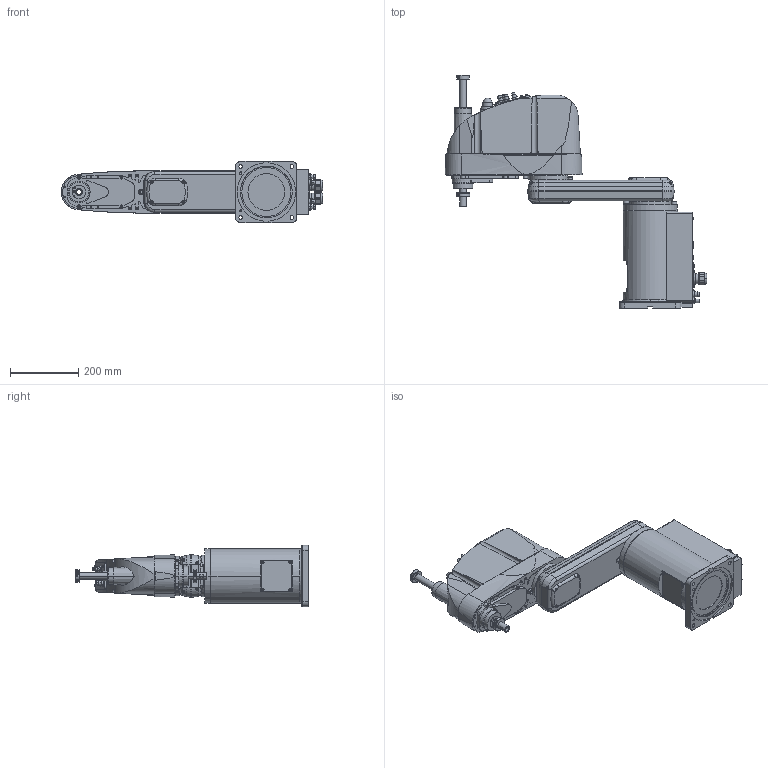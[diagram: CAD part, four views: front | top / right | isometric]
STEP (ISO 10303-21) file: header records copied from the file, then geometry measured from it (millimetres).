
FILE_DESCRIPTION( ( '' ), '1' );
FILE_NAME( '//expscmdclustefs.cadenas.external/client_exchange/iodir/jobs/output/wkb51534767_no0/STEP/G6_551S_2_14b.stp', '2012-11-23T09:08:28', ( '' ), ( '' ), ' ', ' ', ' ' );
FILE_SCHEMA( ( 'automotive_design' ) );
Length unit declared in the file: millimetre
Products named in the file (4): 1; 2; 3; 4
Bounding box: 767.5 x 684 x 180 mm (x, y, z)
Volume: 19950557.5 mm3; surface area: 871505.3 mm2
Topology: 4 solids, 4 shells, 1576 faces, 3859 edges, 2484 vertices
Faces by surface type: plane 789, cylinder 533, cone 194, torus 59, sphere 1
Entity records: 93192 total; most frequent: CARTESIAN_POINT 10813, DIRECTION 8240, STYLED_ITEM 7897, PRESENTATION_STYLE_ASSIGNMENT 7897, COLOUR_RGB 7897, ORIENTED_EDGE 7666, EDGE_CURVE 3833, CURVE_STYLE 3833
